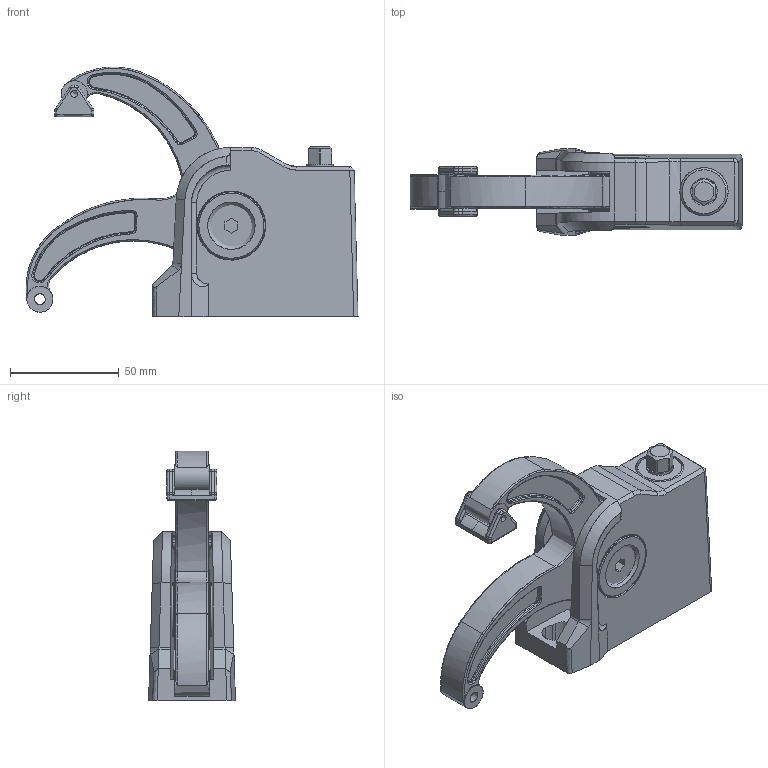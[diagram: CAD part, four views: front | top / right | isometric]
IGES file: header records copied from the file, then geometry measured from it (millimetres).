
Start section: ZWSOFT
Global section: file name: BAS-CB10-6.igs; native system: ZW3D; preprocessor: 1.0; author: ZW3D; organization: ZWSOFT; date: 120704.114157; units: millimetre
Bounding box: 152.93 x 40 x 115.02 mm (x, y, z)
Surface area: 77197.9 mm2 (no closed solid volume)
Topology: 0 solids, 0 shells, 480 faces, 2450 edges, 2319 vertices
Faces by surface type: bspline 480
